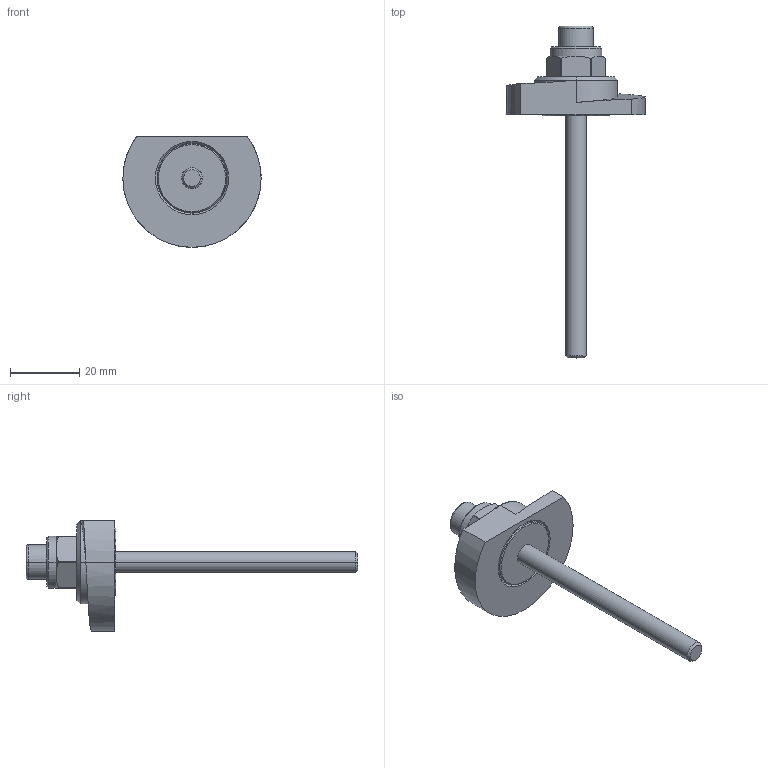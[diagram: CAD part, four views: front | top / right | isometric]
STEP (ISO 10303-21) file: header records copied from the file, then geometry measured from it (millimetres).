
FILE_DESCRIPTION (( 'STEP AP214' ), '1' );
FILE_NAME ('918.1-40-SKS-R-70.step', '2024-05-15T13:01:23', ( '' ), ( '' ), 'SwSTEP 2.0', 'SolidWorks 2022', '' );
FILE_SCHEMA (( 'AUTOMOTIVE_DESIGN' ));
Length unit declared in the file: millimetre
Products named in the file (1): 918.1-40-SKS-R-70
Bounding box: 40 x 96 x 32 mm (x, y, z)
Volume: 12929.2 mm3; surface area: 7527.9 mm2
Topology: 1 solids, 2 shells, 82 faces, 185 edges, 116 vertices
Faces by surface type: cylinder 30, plane 26, cone 22, torus 2, bspline 2
Entity records: 2641 total; most frequent: CARTESIAN_POINT 753, DIRECTION 407, ORIENTED_EDGE 370, EDGE_CURVE 185, AXIS2_PLACEMENT_3D 163, VERTEX_POINT 116, EDGE_LOOP 93, CIRCLE 82
